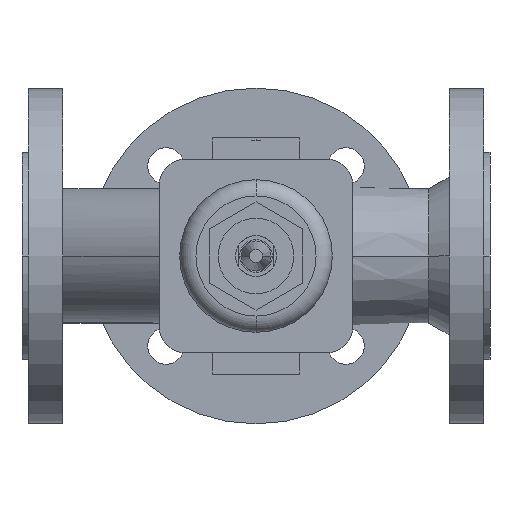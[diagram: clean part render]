
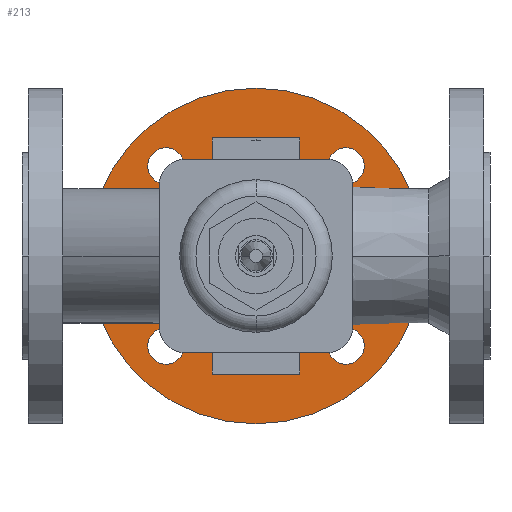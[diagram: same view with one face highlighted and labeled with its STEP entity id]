
A CAD part, front view. The second image highlights one B-rep face of the part: STEP entity #213.
In plain terms, the highlighted planar face has unit normal (0, -1, 0).
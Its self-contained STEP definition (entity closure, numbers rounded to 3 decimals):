
#213 = ADVANCED_FACE( '', ( #530, #531, #532, #533, #534, #535 ), #536, .T. );
#530 = FACE_OUTER_BOUND( '', #856, .T. );
#531 = FACE_BOUND( '', #857, .T. );
#532 = FACE_BOUND( '', #858, .T. );
#533 = FACE_BOUND( '', #859, .T. );
#534 = FACE_BOUND( '', #860, .T. );
#535 = FACE_BOUND( '', #861, .T. );
#536 = PLANE( '', #862 );
#856 = EDGE_LOOP( '', ( #1953, #1954 ) );
#857 = EDGE_LOOP( '', ( #1955, #1956 ) );
#858 = EDGE_LOOP( '', ( #1957, #1958 ) );
#859 = EDGE_LOOP( '', ( #1959, #1960 ) );
#860 = EDGE_LOOP( '', ( #1961, #1962 ) );
#861 = EDGE_LOOP( '', ( #1963, #1964 ) );
#862 = AXIS2_PLACEMENT_3D( '', #1965, #1966, #1967 );
#1953 = ORIENTED_EDGE( '', *, *, #2343, .F. );
#1954 = ORIENTED_EDGE( '', *, *, #2013, .F. );
#1955 = ORIENTED_EDGE( '', *, *, #2342, .F. );
#1956 = ORIENTED_EDGE( '', *, *, #2017, .F. );
#1957 = ORIENTED_EDGE( '', *, *, #2341, .F. );
#1958 = ORIENTED_EDGE( '', *, *, #2021, .F. );
#1959 = ORIENTED_EDGE( '', *, *, #2340, .F. );
#1960 = ORIENTED_EDGE( '', *, *, #2025, .F. );
#1961 = ORIENTED_EDGE( '', *, *, #2339, .F. );
#1962 = ORIENTED_EDGE( '', *, *, #2029, .F. );
#1963 = ORIENTED_EDGE( '', *, *, #2040, .F. );
#1964 = ORIENTED_EDGE( '', *, *, #2283, .F. );
#1965 = CARTESIAN_POINT( '', ( 67.5, 78.4, 0. ) );
#1966 = DIRECTION( '', ( 0., -1., 0. ) );
#1967 = DIRECTION( '', ( -1., 0., 0. ) );
#2013 = EDGE_CURVE( '', #2382, #2378, #2384, .T. );
#2017 = EDGE_CURVE( '', #2390, #2386, #2392, .T. );
#2021 = EDGE_CURVE( '', #2398, #2394, #2400, .T. );
#2025 = EDGE_CURVE( '', #2406, #2402, #2408, .T. );
#2029 = EDGE_CURVE( '', #2414, #2410, #2416, .T. );
#2040 = EDGE_CURVE( '', #2434, #2437, #2438, .T. );
#2283 = EDGE_CURVE( '', #2437, #2434, #2837, .T. );
#2339 = EDGE_CURVE( '', #2410, #2414, #2922, .T. );
#2340 = EDGE_CURVE( '', #2402, #2406, #2923, .T. );
#2341 = EDGE_CURVE( '', #2394, #2398, #2924, .T. );
#2342 = EDGE_CURVE( '', #2386, #2390, #2925, .T. );
#2343 = EDGE_CURVE( '', #2378, #2382, #2926, .T. );
#2378 = VERTEX_POINT( '', #3011 );
#2382 = VERTEX_POINT( '', #3016 );
#2384 = CIRCLE( '', #3019, 82.5 );
#2386 = VERTEX_POINT( '', #3021 );
#2390 = VERTEX_POINT( '', #3026 );
#2392 = CIRCLE( '', #3029, 9. );
#2394 = VERTEX_POINT( '', #3031 );
#2398 = VERTEX_POINT( '', #3036 );
#2400 = CIRCLE( '', #3039, 9. );
#2402 = VERTEX_POINT( '', #3041 );
#2406 = VERTEX_POINT( '', #3046 );
#2408 = CIRCLE( '', #3049, 9. );
#2410 = VERTEX_POINT( '', #3051 );
#2414 = VERTEX_POINT( '', #3056 );
#2416 = CIRCLE( '', #3059, 9. );
#2434 = VERTEX_POINT( '', #3225 );
#2437 = VERTEX_POINT( '', #3229 );
#2438 = CIRCLE( '', #3230, 44. );
#2837 = CIRCLE( '', #3996, 44. );
#2922 = CIRCLE( '', #4153, 9. );
#2923 = CIRCLE( '', #4154, 9. );
#2924 = CIRCLE( '', #4155, 9. );
#2925 = CIRCLE( '', #4156, 9. );
#2926 = CIRCLE( '', #4157, 82.5 );
#3011 = CARTESIAN_POINT( '', ( 197.5, 78.4, 0. ) );
#3016 = CARTESIAN_POINT( '', ( 32.5, 78.4, 0. ) );
#3019 = AXIS2_PLACEMENT_3D( '', #4196, #4197, #4198 );
#3021 = CARTESIAN_POINT( '', ( 168.194, 78.4, 44.194 ) );
#3026 = CARTESIAN_POINT( '', ( 150.194, 78.4, 44.194 ) );
#3029 = AXIS2_PLACEMENT_3D( '', #4204, #4205, #4206 );
#3031 = CARTESIAN_POINT( '', ( 168.194, 78.4, -44.194 ) );
#3036 = CARTESIAN_POINT( '', ( 150.194, 78.4, -44.194 ) );
#3039 = AXIS2_PLACEMENT_3D( '', #4212, #4213, #4214 );
#3041 = CARTESIAN_POINT( '', ( 79.806, 78.4, 44.194 ) );
#3046 = CARTESIAN_POINT( '', ( 61.806, 78.4, 44.194 ) );
#3049 = AXIS2_PLACEMENT_3D( '', #4220, #4221, #4222 );
#3051 = CARTESIAN_POINT( '', ( 79.806, 78.4, -44.194 ) );
#3056 = CARTESIAN_POINT( '', ( 61.806, 78.4, -44.194 ) );
#3059 = AXIS2_PLACEMENT_3D( '', #4228, #4229, #4230 );
#3225 = CARTESIAN_POINT( '', ( 71., 78.4, 0. ) );
#3229 = CARTESIAN_POINT( '', ( 159., 78.4, 0. ) );
#3230 = AXIS2_PLACEMENT_3D( '', #4245, #4246, #4247 );
#3996 = AXIS2_PLACEMENT_3D( '', #4734, #4735, #4736 );
#4153 = AXIS2_PLACEMENT_3D( '', #4812, #4813, #4814 );
#4154 = AXIS2_PLACEMENT_3D( '', #4815, #4816, #4817 );
#4155 = AXIS2_PLACEMENT_3D( '', #4818, #4819, #4820 );
#4156 = AXIS2_PLACEMENT_3D( '', #4821, #4822, #4823 );
#4157 = AXIS2_PLACEMENT_3D( '', #4824, #4825, #4826 );
#4196 = CARTESIAN_POINT( '', ( 115., 78.4, 0. ) );
#4197 = DIRECTION( '', ( 0., 1., 0. ) );
#4198 = DIRECTION( '', ( 1., 0., 0. ) );
#4204 = CARTESIAN_POINT( '', ( 159.194, 78.4, 44.194 ) );
#4205 = DIRECTION( '', ( 0., -1., 0. ) );
#4206 = DIRECTION( '', ( 1., 0., 0. ) );
#4212 = CARTESIAN_POINT( '', ( 159.194, 78.4, -44.194 ) );
#4213 = DIRECTION( '', ( 0., -1., 0. ) );
#4214 = DIRECTION( '', ( 1., 0., 0. ) );
#4220 = CARTESIAN_POINT( '', ( 70.806, 78.4, 44.194 ) );
#4221 = DIRECTION( '', ( 0., -1., 0. ) );
#4222 = DIRECTION( '', ( 1., 0., 0. ) );
#4228 = CARTESIAN_POINT( '', ( 70.806, 78.4, -44.194 ) );
#4229 = DIRECTION( '', ( 0., -1., 0. ) );
#4230 = DIRECTION( '', ( 1., 0., 0. ) );
#4245 = CARTESIAN_POINT( '', ( 115., 78.4, 0. ) );
#4246 = DIRECTION( '', ( 0., -1., 0. ) );
#4247 = DIRECTION( '', ( -1., 0., 0. ) );
#4734 = CARTESIAN_POINT( '', ( 115., 78.4, 0. ) );
#4735 = DIRECTION( '', ( 0., -1., 0. ) );
#4736 = DIRECTION( '', ( -1., 0., 0. ) );
#4812 = CARTESIAN_POINT( '', ( 70.806, 78.4, -44.194 ) );
#4813 = DIRECTION( '', ( 0., -1., 0. ) );
#4814 = DIRECTION( '', ( 1., 0., 0. ) );
#4815 = CARTESIAN_POINT( '', ( 70.806, 78.4, 44.194 ) );
#4816 = DIRECTION( '', ( 0., -1., 0. ) );
#4817 = DIRECTION( '', ( 1., 0., 0. ) );
#4818 = CARTESIAN_POINT( '', ( 159.194, 78.4, -44.194 ) );
#4819 = DIRECTION( '', ( 0., -1., 0. ) );
#4820 = DIRECTION( '', ( 1., 0., 0. ) );
#4821 = CARTESIAN_POINT( '', ( 159.194, 78.4, 44.194 ) );
#4822 = DIRECTION( '', ( 0., -1., 0. ) );
#4823 = DIRECTION( '', ( 1., 0., 0. ) );
#4824 = CARTESIAN_POINT( '', ( 115., 78.4, 0. ) );
#4825 = DIRECTION( '', ( 0., 1., 0. ) );
#4826 = DIRECTION( '', ( 1., 0., 0. ) );
